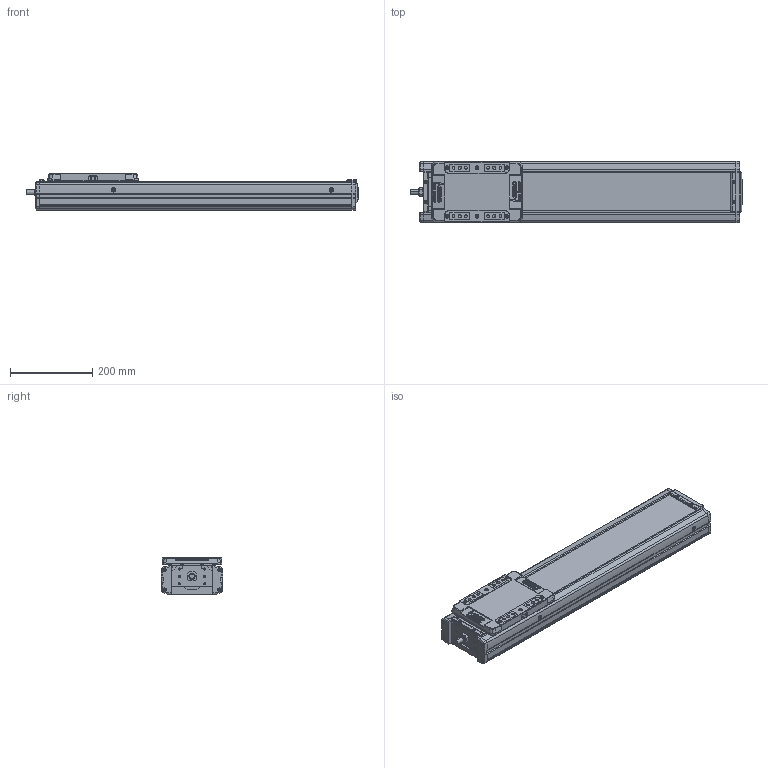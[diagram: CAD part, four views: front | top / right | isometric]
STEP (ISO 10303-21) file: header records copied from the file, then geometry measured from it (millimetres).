
FILE_DESCRIPTION(('STEP AP214'),'1');
FILE_NAME('Z:/Web/3D/SAN150/2013.04 (STP.)/5SAN150ㅁㅁ-600.stp','2013-05-07T11:10:27',(' '),(' '),'Spatial InterOp 3D',' ',' ');
FILE_SCHEMA(('automotive_design'));
Length unit declared in the file: millimetre
Products named in the file (35): SLBL-SAN150; SLCV-SAN150; FHCS M4.0 x 8.0; BHCS M4.0 x 10.0; SFX-SAN150; RRCV-SAN150; FRBL-SAN150; Spacer; RN15; FRCV-SAN150; Screw 20; BASE-SAN150-000L ; SUS COVER; 스크루 : Round - M5.0 x 6.0
Bounding box: 808 x 150 x 90 mm (x, y, z)
Volume: 4572765.7 mm3; surface area: 853330.5 mm2
Topology: 35 solids, 35 shells, 2025 faces, 5225 edges, 3334 vertices
Faces by surface type: plane 985, cylinder 725, cone 234, sphere 48, bspline 21, torus 12
Entity records: 80477 total; most frequent: CARTESIAN_POINT 13201, DIRECTION 11030, ORIENTED_EDGE 10242, EDGE_CURVE 5121, AXIS2_PLACEMENT_3D 3950, VERTEX_POINT 3334, LINE 3130, VECTOR 3130
